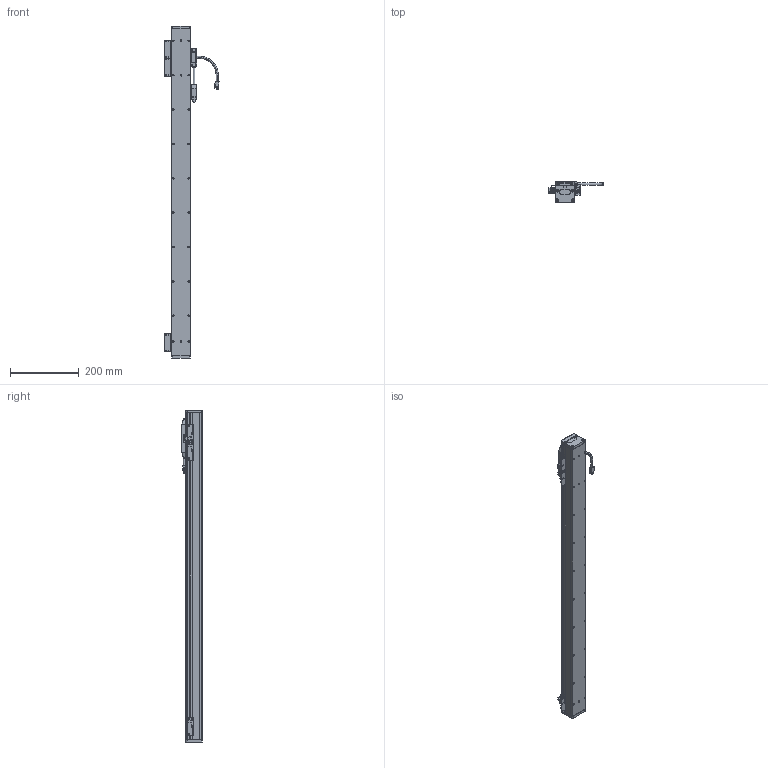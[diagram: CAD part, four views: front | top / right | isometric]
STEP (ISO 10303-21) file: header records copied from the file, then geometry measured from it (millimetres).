
FILE_DESCRIPTION(('Open CASCADE Model'),'2;1');
FILE_NAME('Open CASCADE Shape Model','2025-11-07T00:51:54',('Author'),( 'Open CASCADE'),'Open CASCADE STEP processor 7.6','Open CASCADE 7.6' ,'Unknown');
FILE_SCHEMA(('AUTOMOTIVE_DESIGN { 1 0 10303 214 1 1 1 1 }'));
Length unit declared in the file: millimetre
Products named in the file (25): Open CASCADE STEP translator 7.6 182; Open CASCADE STEP translator 7.6 182.1; Open CASCADE STEP translator 7.6 182.2; Open CASCADE STEP translator 7.6 182.3; Open CASCADE STEP translator 7.6 182.4; Open CASCADE STEP translator 7.6 182.5; Open CASCADE STEP translator 7.6 182.6; Open CASCADE STEP translator 7.6 182.7; Open CASCADE STEP translator 7.6 182.8; Open CASCADE STEP translator 7.6 182.9; Open CASCADE STEP translator 7.6 182.10; Open CASCADE STEP translator 7.6 182.11; Open CASCADE STEP translator 7.6 182.12; Open CASCADE STEP translator 7.6 182.13; Open CASCADE STEP translator 7.6 182.14; Open CASCADE STEP translator 7.6 182.14.1; Open CASCADE STEP translator 7.6 182.14.1.1; Open CASCADE STEP translator 7.6 182.14.1.2; Open CASCADE STEP translator 7.6 182.14.1.3; Open CASCADE STEP translator 7.6 182.14.1.4; Open CASCADE STEP translator 7.6 182.14.1.5; Open CASCADE STEP translator 7.6 182.15; Open CASCADE STEP translator 7.6 182.16; Open CASCADE STEP translator 7.6 182.17; Open CASCADE STEP translator 7.6 182.18
Assembly tree (24 placements, depth 4):
  Open CASCADE STEP translator 7.6 182
    Open CASCADE STEP translator 7.6 182.1
    Open CASCADE STEP translator 7.6 182.2
    Open CASCADE STEP translator 7.6 182.3
    Open CASCADE STEP translator 7.6 182.4
    Open CASCADE STEP translator 7.6 182.5
    Open CASCADE STEP translator 7.6 182.6
    Open CASCADE STEP translator 7.6 182.7
    Open CASCADE STEP translator 7.6 182.8
    Open CASCADE STEP translator 7.6 182.9
    Open CASCADE STEP translator 7.6 182.10
    Open CASCADE STEP translator 7.6 182.11
    Open CASCADE STEP translator 7.6 182.12
    Open CASCADE STEP translator 7.6 182.13
    Open CASCADE STEP translator 7.6 182.14
      Open CASCADE STEP translator 7.6 182.14.1
        Open CASCADE STEP translator 7.6 182.14.1.1
        Open CASCADE STEP translator 7.6 182.14.1.2
        Open CASCADE STEP translator 7.6 182.14.1.3
        Open CASCADE STEP translator 7.6 182.14.1.4
        Open CASCADE STEP translator 7.6 182.14.1.5
    Open CASCADE STEP translator 7.6 182.15
    Open CASCADE STEP translator 7.6 182.16
    Open CASCADE STEP translator 7.6 182.17
    Open CASCADE STEP translator 7.6 182.18
Bounding box: 158 x 60 x 966 mm (x, y, z)
Volume: 2601609.3 mm3; surface area: 332744.1 mm2
Topology: 22 solids, 23 shells, 1909 faces, 4761 edges, 3016 vertices
Faces by surface type: plane 985, cylinder 712, bspline 112, cone 84, torus 16
Entity records: 146358 total; most frequent: CARTESIAN_POINT 52827, DIRECTION 17118, LINE 10455, VECTOR 10455, ORIENTED_EDGE 9388, PCURVE 9388, DEFINITIONAL_REPRESENTATION 9388, EDGE_CURVE 4694
